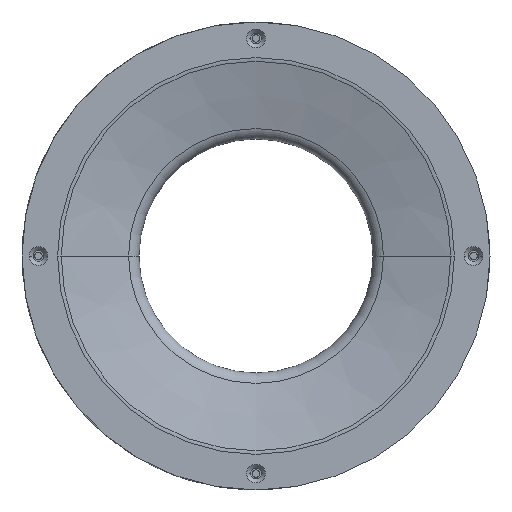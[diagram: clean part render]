
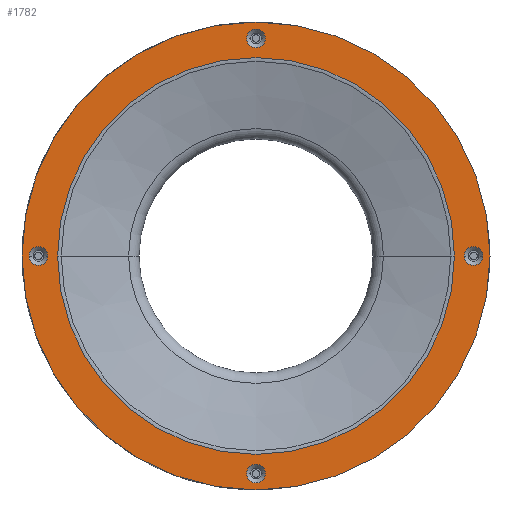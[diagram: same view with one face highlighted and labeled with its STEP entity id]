
A CAD part, front view. The second image highlights one B-rep face of the part: STEP entity #1782.
In plain terms, the highlighted planar face has unit normal (0, -1, 0).
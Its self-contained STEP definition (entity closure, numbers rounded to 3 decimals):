
#14 = VERTEX_POINT ( 'NONE', #1396 ) ;
#20 = CARTESIAN_POINT ( 'NONE',  ( 0., -19.999, 109.462 ) ) ;
#39 = ORIENTED_EDGE ( 'NONE', *, *, #1354, .F. ) ;
#60 = AXIS2_PLACEMENT_3D ( 'NONE', #1896, #1378, #2204 ) ;
#134 = ORIENTED_EDGE ( 'NONE', *, *, #3193, .F. ) ;
#158 = AXIS2_PLACEMENT_3D ( 'NONE', #1152, #1980, #3026 ) ;
#239 = CIRCLE ( 'NONE', #334, 2. ) ;
#249 = DIRECTION ( 'NONE',  ( 1., 0., 0. ) ) ;
#261 = DIRECTION ( 'NONE',  ( 0., 1., 0. ) ) ;
#281 = DIRECTION ( 'NONE',  ( 1., 0., 0. ) ) ;
#334 = AXIS2_PLACEMENT_3D ( 'NONE', #2807, #1220, #3082 ) ;
#349 = VERTEX_POINT ( 'NONE', #1096 ) ;
#350 = AXIS2_PLACEMENT_3D ( 'NONE', #1224, #1206, #1749 ) ;
#381 = VERTEX_POINT ( 'NONE', #1426 ) ;
#395 = ORIENTED_EDGE ( 'NONE', *, *, #2392, .T. ) ;
#406 = EDGE_CURVE ( 'NONE', #1479, #1298, #1908, .T. ) ;
#413 = VERTEX_POINT ( 'NONE', #887 ) ;
#491 = EDGE_CURVE ( 'NONE', #1758, #3386, #239, .T. ) ;
#569 = CARTESIAN_POINT ( 'NONE',  ( 0., -19.999, 155.962 ) ) ;
#621 = AXIS2_PLACEMENT_3D ( 'NONE', #635, #1143, #3028 ) ;
#628 = EDGE_LOOP ( 'NONE', ( #1967, #3100 ) ) ;
#634 = EDGE_LOOP ( 'NONE', ( #39, #134 ) ) ;
#635 = CARTESIAN_POINT ( 'NONE',  ( 0., -19.999, 62.962 ) ) ;
#651 = ORIENTED_EDGE ( 'NONE', *, *, #661, .F. ) ;
#661 = EDGE_CURVE ( 'NONE', #1298, #1479, #2237, .T. ) ;
#706 = VERTEX_POINT ( 'NONE', #3437 ) ;
#745 = ORIENTED_EDGE ( 'NONE', *, *, #2372, .F. ) ;
#753 = CARTESIAN_POINT ( 'NONE',  ( 0., -19.999, 59.462 ) ) ;
#754 = DIRECTION ( 'NONE',  ( 1., 0., 0. ) ) ;
#770 = FACE_BOUND ( 'NONE', #634, .T. ) ;
#787 = ORIENTED_EDGE ( 'NONE', *, *, #2076, .F. ) ;
#860 = EDGE_CURVE ( 'NONE', #349, #1885, #2482, .T. ) ;
#887 = CARTESIAN_POINT ( 'NONE',  ( 2., -19.999, 155.962 ) ) ;
#923 = DIRECTION ( 'NONE',  ( 1., 0., 0. ) ) ;
#991 = PLANE ( 'NONE',  #1999 ) ;
#1026 = CIRCLE ( 'NONE', #3433, 50. ) ;
#1047 = CARTESIAN_POINT ( 'NONE',  ( 0., -19.999, 109.462 ) ) ;
#1071 = CARTESIAN_POINT ( 'NONE',  ( -44.5, -19.999, 109.462 ) ) ;
#1081 = ORIENTED_EDGE ( 'NONE', *, *, #2900, .T. ) ;
#1096 = CARTESIAN_POINT ( 'NONE',  ( 2., -19.999, 62.962 ) ) ;
#1126 = CIRCLE ( 'NONE', #2263, 50. ) ;
#1136 = AXIS2_PLACEMENT_3D ( 'NONE', #569, #3199, #281 ) ;
#1143 = DIRECTION ( 'NONE',  ( 0., -1., 0. ) ) ;
#1152 = CARTESIAN_POINT ( 'NONE',  ( 46.5, -19.999, 109.462 ) ) ;
#1206 = DIRECTION ( 'NONE',  ( 0., -1., 0. ) ) ;
#1216 = CIRCLE ( 'NONE', #2979, 42.395 ) ;
#1220 = DIRECTION ( 'NONE',  ( 0., -1., 0. ) ) ;
#1224 = CARTESIAN_POINT ( 'NONE',  ( -46.5, -19.999, 109.462 ) ) ;
#1293 = DIRECTION ( 'NONE',  ( 0., -1., 0. ) ) ;
#1298 = VERTEX_POINT ( 'NONE', #1706 ) ;
#1305 = DIRECTION ( 'NONE',  ( 0., -1., 0. ) ) ;
#1313 = FACE_OUTER_BOUND ( 'NONE', #2912, .T. ) ;
#1354 = EDGE_CURVE ( 'NONE', #413, #381, #1466, .T. ) ;
#1378 = DIRECTION ( 'NONE',  ( 0., 1., 0. ) ) ;
#1396 = CARTESIAN_POINT ( 'NONE',  ( -50., -19.999, 109.462 ) ) ;
#1426 = CARTESIAN_POINT ( 'NONE',  ( -2., -19.999, 155.962 ) ) ;
#1466 = CIRCLE ( 'NONE', #1136, 2. ) ;
#1479 = VERTEX_POINT ( 'NONE', #2728 ) ;
#1498 = ORIENTED_EDGE ( 'NONE', *, *, #860, .F. ) ;
#1542 = AXIS2_PLACEMENT_3D ( 'NONE', #2311, #2338, #2862 ) ;
#1580 = AXIS2_PLACEMENT_3D ( 'NONE', #2380, #1293, #249 ) ;
#1592 = DIRECTION ( 'NONE',  ( -1., 0., 0. ) ) ;
#1599 = DIRECTION ( 'NONE',  ( 0., 1., 0. ) ) ;
#1691 = CIRCLE ( 'NONE', #60, 42.395 ) ;
#1706 = CARTESIAN_POINT ( 'NONE',  ( 48.5, -19.999, 109.462 ) ) ;
#1728 = ORIENTED_EDGE ( 'NONE', *, *, #406, .F. ) ;
#1749 = DIRECTION ( 'NONE',  ( 1., 0., 0. ) ) ;
#1754 = VERTEX_POINT ( 'NONE', #2292 ) ;
#1758 = VERTEX_POINT ( 'NONE', #2316 ) ;
#1782 = ADVANCED_FACE ( 'NONE', ( #2271, #770, #1909, #2895, #2192, #1313 ), #991, .T. ) ;
#1852 = AXIS2_PLACEMENT_3D ( 'NONE', #2893, #1305, #754 ) ;
#1885 = VERTEX_POINT ( 'NONE', #3071 ) ;
#1896 = CARTESIAN_POINT ( 'NONE',  ( 0., -19.999, 109.462 ) ) ;
#1908 = CIRCLE ( 'NONE', #158, 2. ) ;
#1909 = FACE_BOUND ( 'NONE', #628, .T. ) ;
#1967 = ORIENTED_EDGE ( 'NONE', *, *, #3037, .F. ) ;
#1980 = DIRECTION ( 'NONE',  ( 0., -1., 0. ) ) ;
#1999 = AXIS2_PLACEMENT_3D ( 'NONE', #753, #2406, #923 ) ;
#2076 = EDGE_CURVE ( 'NONE', #14, #2461, #1026, .T. ) ;
#2082 = ORIENTED_EDGE ( 'NONE', *, *, #2727, .F. ) ;
#2125 = CARTESIAN_POINT ( 'NONE',  ( 0., -19.999, 109.462 ) ) ;
#2138 = DIRECTION ( 'NONE',  ( -1., 0., 0. ) ) ;
#2143 = DIRECTION ( 'NONE',  ( -1., 0., 0. ) ) ;
#2192 = FACE_BOUND ( 'NONE', #3216, .T. ) ;
#2204 = DIRECTION ( 'NONE',  ( -1., 0., 0. ) ) ;
#2219 = CIRCLE ( 'NONE', #1852, 2. ) ;
#2237 = CIRCLE ( 'NONE', #1580, 2. ) ;
#2263 = AXIS2_PLACEMENT_3D ( 'NONE', #1047, #261, #1592 ) ;
#2271 = FACE_BOUND ( 'NONE', #3397, .T. ) ;
#2292 = CARTESIAN_POINT ( 'NONE',  ( -42.395, -19.999, 109.462 ) ) ;
#2311 = CARTESIAN_POINT ( 'NONE',  ( 0., -19.999, 155.962 ) ) ;
#2316 = CARTESIAN_POINT ( 'NONE',  ( -48.5, -19.999, 109.462 ) ) ;
#2338 = DIRECTION ( 'NONE',  ( 0., -1., 0. ) ) ;
#2344 = EDGE_LOOP ( 'NONE', ( #1498, #2082 ) ) ;
#2372 = EDGE_CURVE ( 'NONE', #2461, #14, #1126, .T. ) ;
#2380 = CARTESIAN_POINT ( 'NONE',  ( 46.5, -19.999, 109.462 ) ) ;
#2392 = EDGE_CURVE ( 'NONE', #1754, #706, #1691, .T. ) ;
#2406 = DIRECTION ( 'NONE',  ( 0., -1., 0. ) ) ;
#2461 = VERTEX_POINT ( 'NONE', #3245 ) ;
#2482 = CIRCLE ( 'NONE', #621, 2. ) ;
#2537 = CIRCLE ( 'NONE', #350, 2. ) ;
#2727 = EDGE_CURVE ( 'NONE', #1885, #349, #2219, .T. ) ;
#2728 = CARTESIAN_POINT ( 'NONE',  ( 44.5, -19.999, 109.462 ) ) ;
#2807 = CARTESIAN_POINT ( 'NONE',  ( -46.5, -19.999, 109.462 ) ) ;
#2862 = DIRECTION ( 'NONE',  ( 1., 0., 0. ) ) ;
#2893 = CARTESIAN_POINT ( 'NONE',  ( 0., -19.999, 62.962 ) ) ;
#2895 = FACE_BOUND ( 'NONE', #2344, .T. ) ;
#2900 = EDGE_CURVE ( 'NONE', #706, #1754, #1216, .T. ) ;
#2902 = DIRECTION ( 'NONE',  ( 0., 1., 0. ) ) ;
#2912 = EDGE_LOOP ( 'NONE', ( #787, #745 ) ) ;
#2979 = AXIS2_PLACEMENT_3D ( 'NONE', #20, #1599, #2143 ) ;
#3026 = DIRECTION ( 'NONE',  ( 1., 0., 0. ) ) ;
#3028 = DIRECTION ( 'NONE',  ( 1., 0., 0. ) ) ;
#3037 = EDGE_CURVE ( 'NONE', #3386, #1758, #2537, .T. ) ;
#3049 = CIRCLE ( 'NONE', #1542, 2. ) ;
#3071 = CARTESIAN_POINT ( 'NONE',  ( -2., -19.999, 62.962 ) ) ;
#3082 = DIRECTION ( 'NONE',  ( 1., 0., 0. ) ) ;
#3100 = ORIENTED_EDGE ( 'NONE', *, *, #491, .F. ) ;
#3193 = EDGE_CURVE ( 'NONE', #381, #413, #3049, .T. ) ;
#3199 = DIRECTION ( 'NONE',  ( 0., -1., 0. ) ) ;
#3216 = EDGE_LOOP ( 'NONE', ( #395, #1081 ) ) ;
#3245 = CARTESIAN_POINT ( 'NONE',  ( 50., -19.999, 109.462 ) ) ;
#3386 = VERTEX_POINT ( 'NONE', #1071 ) ;
#3397 = EDGE_LOOP ( 'NONE', ( #651, #1728 ) ) ;
#3433 = AXIS2_PLACEMENT_3D ( 'NONE', #2125, #2902, #2138 ) ;
#3437 = CARTESIAN_POINT ( 'NONE',  ( 42.395, -19.999, 109.462 ) ) ;
